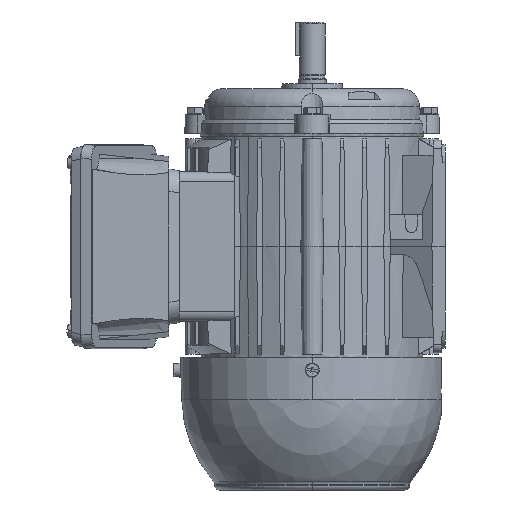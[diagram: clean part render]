
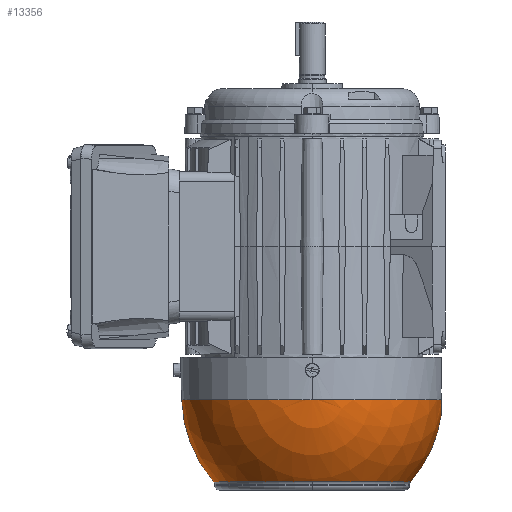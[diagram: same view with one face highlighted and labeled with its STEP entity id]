
A CAD part, left-side view. The second image highlights one B-rep face of the part: STEP entity #13356.
In plain terms, the highlighted spherical face has radius 69.676 mm.
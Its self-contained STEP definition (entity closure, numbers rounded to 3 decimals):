
#960 = EDGE_LOOP ( 'NONE', ( #40981, #40980, #40979, #40978, #40977, #40976, #40975 ) ) ;
#1140 = AXIS2_PLACEMENT_3D ( 'NONE', #18206, #18205, #18210 ) ;
#4395 = VERTEX_POINT ( 'NONE', #16554 ) ;
#6875 = CIRCLE ( 'NONE', #33783, 69.676 ) ;
#6890 = CIRCLE ( 'NONE', #33782, 9.684 ) ;
#6977 = CIRCLE ( 'NONE', #33779, 69.652 ) ;
#8365 = VERTEX_POINT ( 'NONE', #30191 ) ;
#8565 = VERTEX_POINT ( 'NONE', #29991 ) ;
#8600 = VERTEX_POINT ( 'NONE', #29956 ) ;
#13356 = ADVANCED_FACE ( 'NONE', ( #32129 ), #32126, .T. ) ;
#16554 = CARTESIAN_POINT ( 'NONE',  ( 0., -52.611, -125.682 ) ) ;
#16553 = CARTESIAN_POINT ( 'NONE',  ( -69.652, 0., -81.824 ) ) ;
#16782 = CARTESIAN_POINT ( 'NONE',  ( 0., -69., -89.684 ) ) ;
#16859 = CARTESIAN_POINT ( 'NONE',  ( 0., 69.652, -81.824 ) ) ;
#18205 = DIRECTION ( 'NONE',  ( 1., 0., 0. ) ) ;
#18206 = CARTESIAN_POINT ( 'NONE',  ( 0., 0., -80. ) ) ;
#18210 = DIRECTION ( 'NONE',  ( 0., 1., 0. ) ) ;
#18249 = VERTEX_POINT ( 'NONE', #16553 ) ;
#18418 = VERTEX_POINT ( 'NONE', #16782 ) ;
#18493 = VERTEX_POINT ( 'NONE', #16859 ) ;
#27284 = CARTESIAN_POINT ( 'NONE',  ( 0., 0., -125.682 ) ) ;
#27285 = DIRECTION ( 'NONE',  ( 0., 0., -1. ) ) ;
#27286 = DIRECTION ( 'NONE',  ( -1., 0., 0. ) ) ;
#29956 = CARTESIAN_POINT ( 'NONE',  ( 0., 52.611, -125.682 ) ) ;
#29991 = CARTESIAN_POINT ( 'NONE',  ( -52.611, 0., -125.682 ) ) ;
#30191 = CARTESIAN_POINT ( 'NONE',  ( -9.51, -69., -81.824 ) ) ;
#30468 = EDGE_CURVE ( 'NONE', #18249, #18493, #35771, .T. ) ;
#30494 = EDGE_CURVE ( 'NONE', #18418, #4395, #35852, .T. ) ;
#30590 = EDGE_CURVE ( 'NONE', #8565, #8600, #36173, .T. ) ;
#30659 = EDGE_CURVE ( 'NONE', #4395, #8565, #43738, .T. ) ;
#31025 = EDGE_CURVE ( 'NONE', #18493, #8600, #6875, .T. ) ;
#31031 = EDGE_CURVE ( 'NONE', #18418, #8365, #6890, .T. ) ;
#31057 = EDGE_CURVE ( 'NONE', #8365, #18249, #6977, .T. ) ;
#32126 = SPHERICAL_SURFACE ( 'NONE', #1140, 69.676 ) ;
#32129 = FACE_OUTER_BOUND ( 'NONE', #960, .T. ) ;
#33779 = AXIS2_PLACEMENT_3D ( 'NONE', #37186, #37187, #37188 ) ;
#33782 = AXIS2_PLACEMENT_3D ( 'NONE', #39709, #39710, #39712 ) ;
#33783 = AXIS2_PLACEMENT_3D ( 'NONE', #39681, #39682, #39684 ) ;
#33809 = AXIS2_PLACEMENT_3D ( 'NONE', #27284, #27285, #27286 ) ;
#33816 = AXIS2_PLACEMENT_3D ( 'NONE', #40264, #40265, #40266 ) ;
#33830 = AXIS2_PLACEMENT_3D ( 'NONE', #40011, #40012, #40013 ) ;
#33832 = AXIS2_PLACEMENT_3D ( 'NONE', #39941, #39942, #39943 ) ;
#35771 = CIRCLE ( 'NONE', #33832, 69.652 ) ;
#35852 = CIRCLE ( 'NONE', #33830, 69.676 ) ;
#36173 = CIRCLE ( 'NONE', #33816, 52.611 ) ;
#37186 = CARTESIAN_POINT ( 'NONE',  ( 0., 0., -81.824 ) ) ;
#37187 = DIRECTION ( 'NONE',  ( 0., 0., -1. ) ) ;
#37188 = DIRECTION ( 'NONE',  ( -1., 0., 0. ) ) ;
#39681 = CARTESIAN_POINT ( 'NONE',  ( 0., 0., -80. ) ) ;
#39682 = DIRECTION ( 'NONE',  ( -1., 0., 0. ) ) ;
#39684 = DIRECTION ( 'NONE',  ( 0., 0., 1. ) ) ;
#39709 = CARTESIAN_POINT ( 'NONE',  ( 0., -69., -80. ) ) ;
#39710 = DIRECTION ( 'NONE',  ( 0., 1., 0. ) ) ;
#39712 = DIRECTION ( 'NONE',  ( -1., 0., 0. ) ) ;
#39941 = CARTESIAN_POINT ( 'NONE',  ( 0., 0., -81.824 ) ) ;
#39942 = DIRECTION ( 'NONE',  ( 0., 0., -1. ) ) ;
#39943 = DIRECTION ( 'NONE',  ( -1., 0., 0. ) ) ;
#40011 = CARTESIAN_POINT ( 'NONE',  ( 0., 0., -80. ) ) ;
#40012 = DIRECTION ( 'NONE',  ( 1., 0., 0. ) ) ;
#40013 = DIRECTION ( 'NONE',  ( 0., 1., 0. ) ) ;
#40264 = CARTESIAN_POINT ( 'NONE',  ( 0., 0., -125.682 ) ) ;
#40265 = DIRECTION ( 'NONE',  ( 0., 0., -1. ) ) ;
#40266 = DIRECTION ( 'NONE',  ( -1., 0., 0. ) ) ;
#40975 = ORIENTED_EDGE ( 'NONE', *, *, #30659, .F. ) ;
#40976 = ORIENTED_EDGE ( 'NONE', *, *, #30590, .F. ) ;
#40977 = ORIENTED_EDGE ( 'NONE', *, *, #31025, .T. ) ;
#40978 = ORIENTED_EDGE ( 'NONE', *, *, #30468, .T. ) ;
#40979 = ORIENTED_EDGE ( 'NONE', *, *, #31057, .T. ) ;
#40980 = ORIENTED_EDGE ( 'NONE', *, *, #31031, .T. ) ;
#40981 = ORIENTED_EDGE ( 'NONE', *, *, #30494, .F. ) ;
#43738 = CIRCLE ( 'NONE', #33809, 52.611 ) ;
